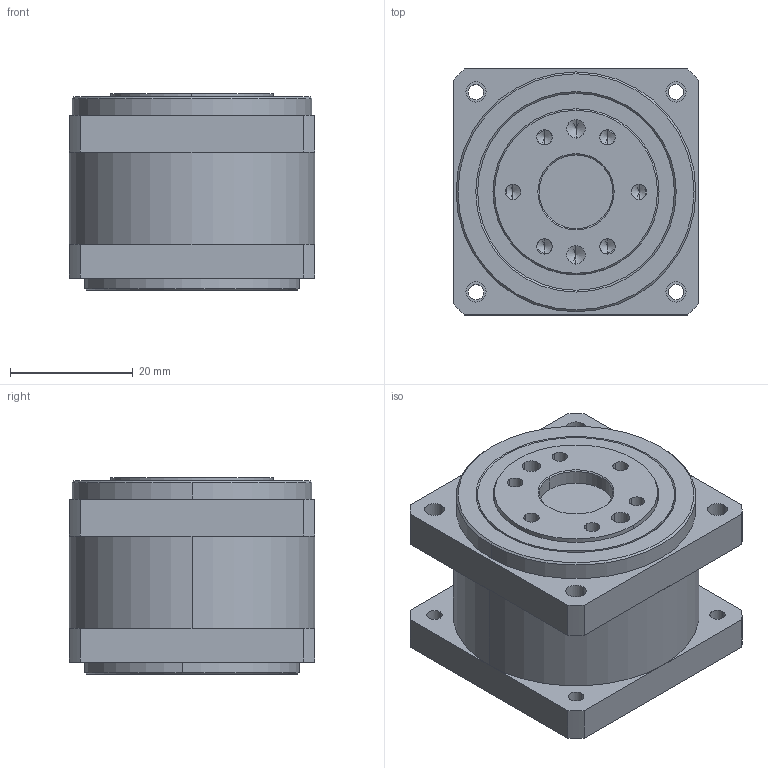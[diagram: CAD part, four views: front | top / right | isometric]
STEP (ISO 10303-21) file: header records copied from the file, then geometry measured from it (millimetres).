
FILE_DESCRIPTION (( 'STEP AP214' ), '1' );
FILE_NAME ('CSF-11-xxx-1U-D.STEP', '2022-05-09T12:18:52', ( 'PC' ), ( 'Microsoft' ), 'SwSTEP 2.0', 'SolidWorks 2016', '' );
FILE_SCHEMA (( 'AUTOMOTIVE_DESIGN' ));
Length unit declared in the file: millimetre
Products named in the file (18): CSF-11-交叉轴承外圈; CSF-11-1U-褲极_蕼偞; CSF-11-02-1U_蕼偞; CSF-11-01-1U_蕼偞; CSF-11-xxx-1U-D; 柔性轴承27.262X20.73X4.8X4.6_預設; DSF-11-1U-D-疏楷汜ん_蕼偞; DSF-11-04-1U-D_蕼偞; 十字槽沉头螺钉  M1.6×4_預設; 内六角螺钉  M2.5×8_預設; CSF-11-05-1U_蕼偞; 种隊 2x8_蕼偞; CSF-11-03-1U_蕼偞; CSF-11蝠脫粣創_蕼偞; 外径27x1.0  O型圈_預設; M1.6-蹟隊_蕼偞; CSF-11-蝠脫粣創黑芛; CSF-11-交叉轴承内圈
Assembly tree (29 placements, depth 3):
  CSF-11-xxx-1U-D
    CSF-11-1U-褲极_蕼偞
      CSF-11-01-1U_蕼偞
      CSF-11-02-1U_蕼偞
    CSF-11蝠脫粣創_蕼偞
      CSF-11-交叉轴承外圈
      CSF-11-交叉轴承内圈
      CSF-11-蝠脫粣創黑芛
      M1.6-蹟隊_蕼偞
      外径27x1.0  O型圈_預設
    CSF-11-03-1U_蕼偞
    种隊 2x8_蕼偞  x3
    CSF-11-05-1U_蕼偞
    内六角螺钉  M2.5×8_預設  x6
    十字槽沉头螺钉  M1.6×4_預設  x6
    DSF-11-1U-D-疏楷汜ん_蕼偞
      DSF-11-04-1U-D_蕼偞
      柔性轴承27.262X20.73X4.8X4.6_預設
Bounding box: 40 x 40 x 32 mm (x, y, z)
Volume: 34046.4 mm3; surface area: 28317 mm2
Topology: 26 solids, 26 shells, 827 faces, 1823 edges, 1052 vertices
Faces by surface type: plane 346, cylinder 247, cone 156, torus 40, bspline 38
Entity records: 15097 total; most frequent: CARTESIAN_POINT 2714, DIRECTION 2587, ORIENTED_EDGE 2138, EDGE_CURVE 1069, AXIS2_PLACEMENT_3D 1058, VERTEX_POINT 651, EDGE_LOOP 576, CIRCLE 560
